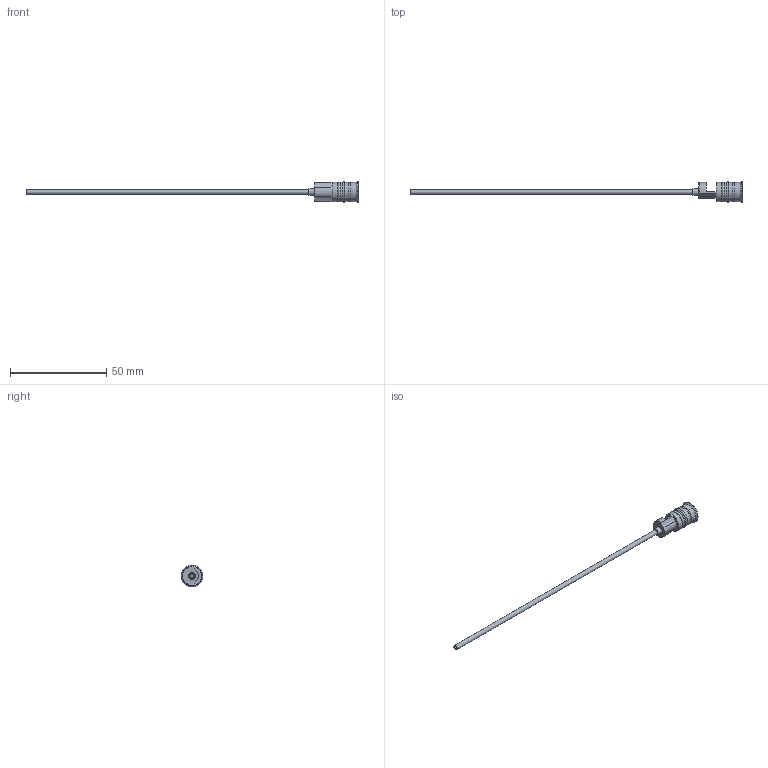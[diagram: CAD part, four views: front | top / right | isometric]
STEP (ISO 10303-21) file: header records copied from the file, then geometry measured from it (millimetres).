
FILE_DESCRIPTION( ( 'STEP AP214' ), '1' );
FILE_NAME( 'p:/temp/worker_239/temp/exporttempdir_3984_70_esbwH/format_0/RF-10Fx150_2.5.stp', '2021-02-05T19:48:11', ( 'License CC BY-ND 4.0' ), ( 'CADENAS' ), ' ', 'PARTsolutions', ' ' );
FILE_SCHEMA( ( 'AUTOMOTIVE_DESIGN { 1 0 10303 214 1 1 1 1 }' ) );
Length unit declared in the file: millimetre
Products named in the file (1): _RF-10Fx150/2.5
Bounding box: 172.5 x 11.3 x 11.3 mm (x, y, z)
Volume: 1544.1 mm3; surface area: 3357.2 mm2
Topology: 1 solids, 1 shells, 47 faces, 109 edges, 69 vertices
Faces by surface type: plane 26, cylinder 13, cone 5, torus 3
Full cylindrical faces by diameter (mm): 2 x1, 2.5 x1, 3.5 x1, 6 x1, 10 x4, 11.3 x1
Entity records: 1643 total; most frequent: CARTESIAN_POINT 225, DIRECTION 217, ORIENTED_EDGE 182, EDGE_CURVE 91, AXIS2_PLACEMENT_3D 83, EDGE_LOOP 70, VERTEX_POINT 69, FACE_OUTER_BOUND 59
